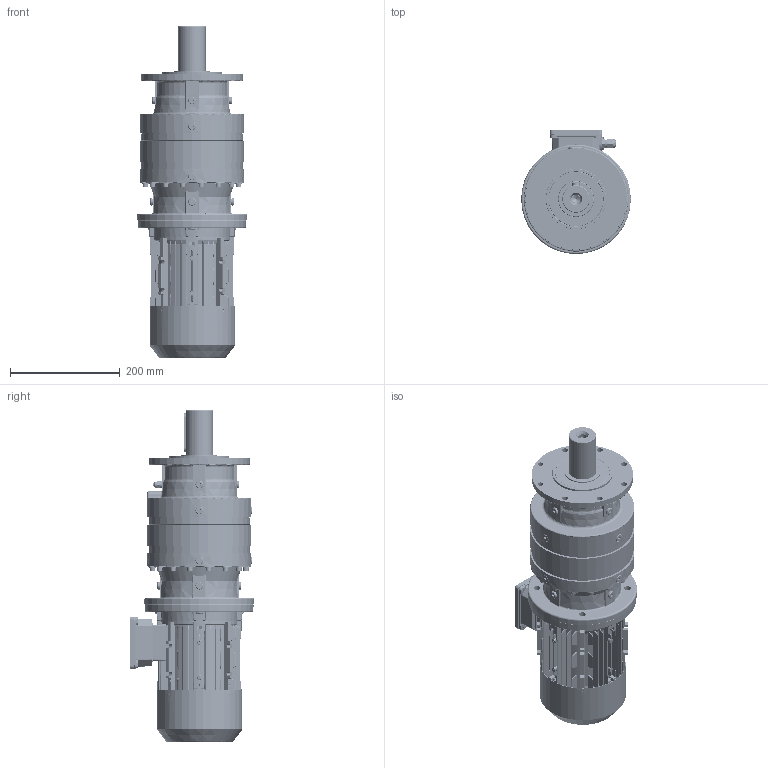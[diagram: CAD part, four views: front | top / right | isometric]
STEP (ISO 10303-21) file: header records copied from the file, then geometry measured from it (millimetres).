
FILE_DESCRIPTION (( 'STEP AP203' ), '1' );
FILE_NAME ('PVL-1102L-MX80-4.STEP', '2019-05-17T07:40:35', ( '' ), ( '' ), 'SwSTEP 2.0', 'SolidWorks 2012', '' );
FILE_SCHEMA (( 'CONFIG_CONTROL_DESIGN' ));
Products named in the file (18): Flansch-80_IMB5; MX3-80_B5; IE 3 80 Plug; PVL-1102L-MX80-4; IE3 80 terminal box cover; IE3 80 Cable glands; IE3 80 Teriminal box base; IE3 80 Gasket for T-box(base); IE3 80 Shaft; IE3 80 Fan cover; IE3 80 Shield; IE3 80 Casing; FL1A; EK1102L; PNL_1102L_0_0_A08_B5_ML7A_FL1A_0_0_0_0_0_0_0_0_0_0_0_M1; 1180B5; ML7A; P11
Assembly tree (17 placements, depth 3):
  PVL-1102L-MX80-4
    PNL_1102L_0_0_A08_B5_ML7A_FL1A_0_0_0_0_0_0_0_0_0_0_0_M1
      P11
      1180B5
      ML7A
      EK1102L
      FL1A
    MX3-80_B5
      IE3 80 Casing
      IE3 80 Shield
      IE3 80 Shaft
      IE3 80 Fan cover
      IE3 80 Teriminal box base
      IE3 80 Gasket for T-box(base)
      IE3 80 terminal box cover
      IE3 80 Cable glands
      Flansch-80_IMB5
      IE 3 80 Plug
Bounding box: 200 x 226.6 x 605.5 mm (x, y, z)
Volume: 6983826.6 mm3; surface area: 1088826.3 mm2
Topology: 19 solids, 19 shells, 5575 faces, 13988 edges, 8489 vertices
Faces by surface type: plane 1634, cylinder 1567, bspline 1417, cone 489, torus 356, sphere 112
Entity records: 223971 total; most frequent: CARTESIAN_POINT 100715, ORIENTED_EDGE 27614, DIRECTION 22306, EDGE_CURVE 13807, AXIS2_PLACEMENT_3D 8515, VERTEX_POINT 8473, EDGE_LOOP 6058, FACE_OUTER_BOUND 5575
